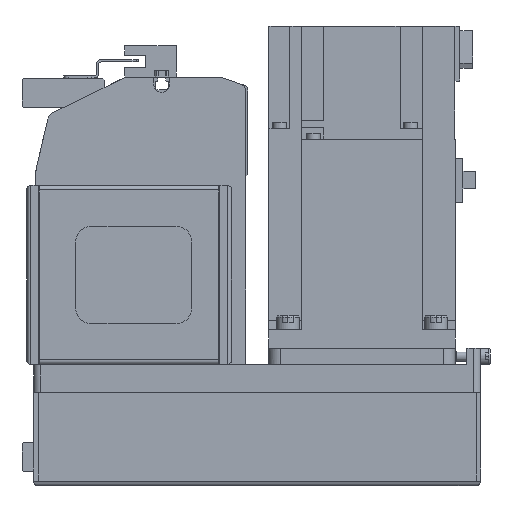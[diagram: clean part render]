
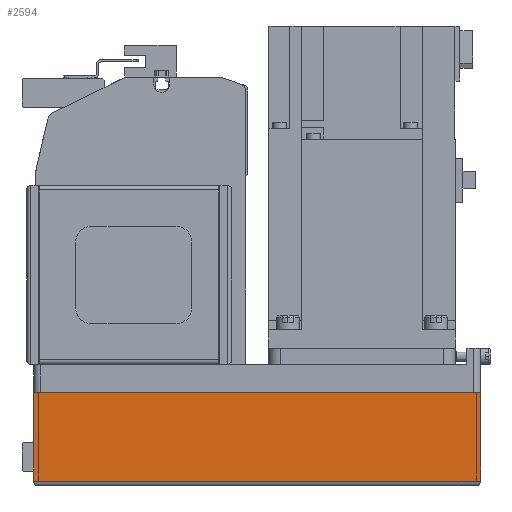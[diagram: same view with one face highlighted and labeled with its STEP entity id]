
A CAD part, left-side view. The second image highlights one B-rep face of the part: STEP entity #2594.
In plain terms, the highlighted planar face has unit normal (-1, 0, 0) as drawn and (0, 1, 0) by its records, which use the part's own axes.
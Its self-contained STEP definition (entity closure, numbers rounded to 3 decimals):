
#2594 = ADVANCED_FACE( '', ( #5517 ), #5518, .T. );
#5517 = FACE_OUTER_BOUND( '', #8701, .T. );
#5518 = PLANE( '', #8702 );
#8701 = EDGE_LOOP( '', ( #16009, #16010, #16011, #16012 ) );
#8702 = AXIS2_PLACEMENT_3D( '', #16013, #16014, #16015 );
#16009 = ORIENTED_EDGE( '', *, *, #19982, .F. );
#16010 = ORIENTED_EDGE( '', *, *, #21243, .F. );
#16011 = ORIENTED_EDGE( '', *, *, #18819, .T. );
#16012 = ORIENTED_EDGE( '', *, *, #19568, .T. );
#16013 = CARTESIAN_POINT( '', ( -192., 40., -50. ) );
#16014 = DIRECTION( '', ( 0., 1., 0. ) );
#16015 = DIRECTION( '', ( 0., 0., 1. ) );
#18819 = EDGE_CURVE( '', #22664, #22666, #22668, .T. );
#19568 = EDGE_CURVE( '', #22666, #23925, #23927, .T. );
#19982 = EDGE_CURVE( '', #24556, #23925, #24558, .T. );
#21243 = EDGE_CURVE( '', #22664, #24556, #26258, .T. );
#22664 = VERTEX_POINT( '', #28084 );
#22666 = VERTEX_POINT( '', #28087 );
#22668 = LINE( '', #28090, #28091 );
#23925 = VERTEX_POINT( '', #29930 );
#23927 = LINE( '', #29933, #29934 );
#24556 = VERTEX_POINT( '', #30832 );
#24558 = LINE( '', #30835, #30836 );
#26258 = LINE( '', #33378, #33379 );
#28084 = CARTESIAN_POINT( '', ( -192., 40., -50. ) );
#28087 = CARTESIAN_POINT( '', ( -192., 40., -12.1 ) );
#28090 = CARTESIAN_POINT( '', ( -192., 40., -50. ) );
#28091 = VECTOR( '', #34764, 1000. );
#29930 = CARTESIAN_POINT( '', ( 0., 40., -12.1 ) );
#29933 = CARTESIAN_POINT( '', ( -192., 40., -12.1 ) );
#29934 = VECTOR( '', #35729, 1000. );
#30832 = CARTESIAN_POINT( '', ( 0., 40., -50. ) );
#30835 = CARTESIAN_POINT( '', ( 0., 40., -50. ) );
#30836 = VECTOR( '', #36258, 1000. );
#33378 = CARTESIAN_POINT( '', ( -192., 40., -50. ) );
#33379 = VECTOR( '', #37631, 1000. );
#34764 = DIRECTION( '', ( 0., 0., 1. ) );
#35729 = DIRECTION( '', ( 1., 0., 0. ) );
#36258 = DIRECTION( '', ( 0., 0., 1. ) );
#37631 = DIRECTION( '', ( 1., 0., 0. ) );
